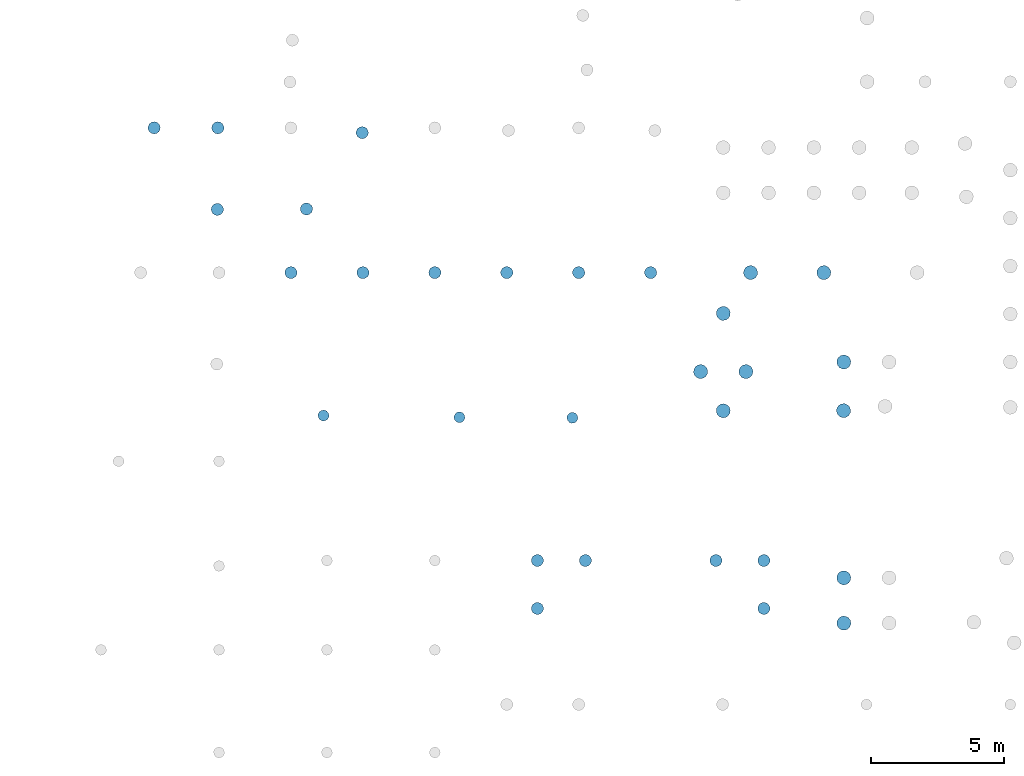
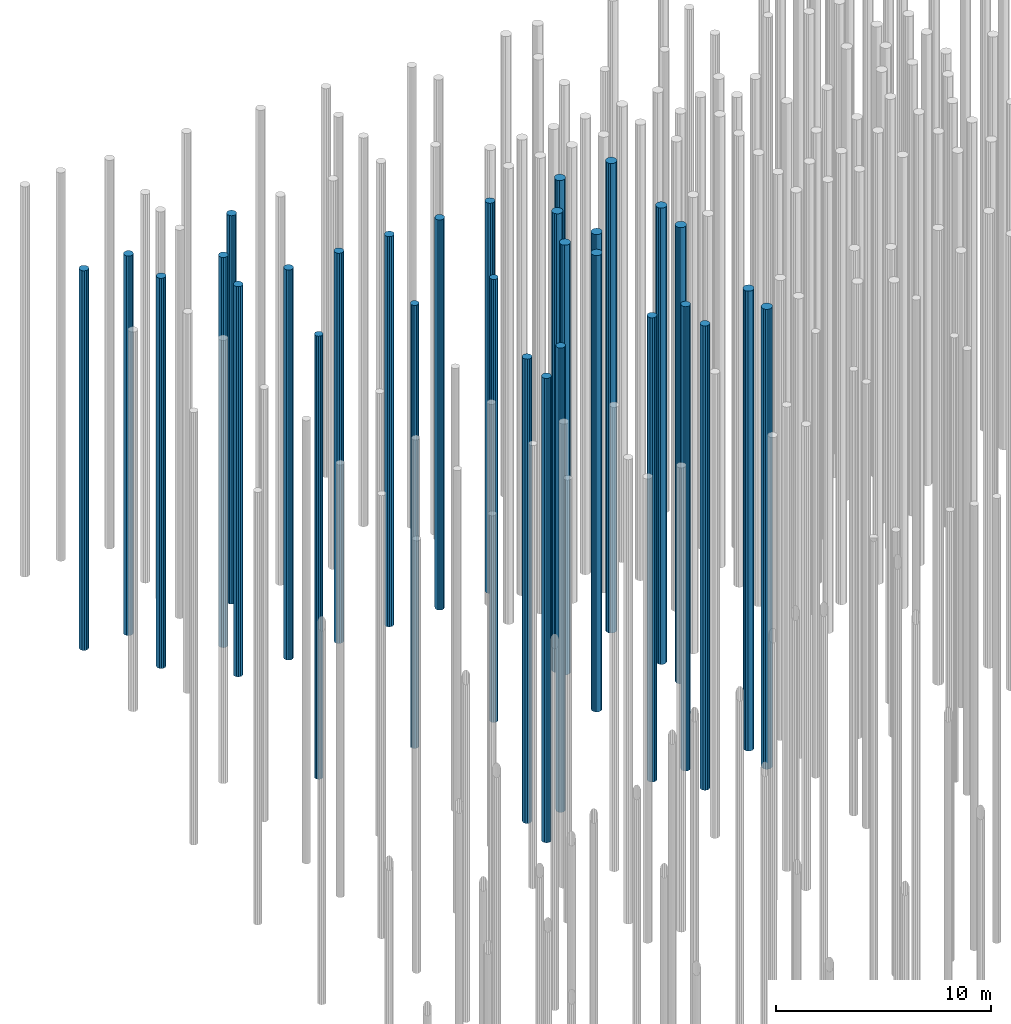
# One storey, part 5 of 20: 30 piles.
"""IFC2X3 building model written with IfcOpenShell, lengths in millimetres."""

from ifc_helpers import new_model, entity, si_unit, converted_unit, derived_unit, direction, frame, origin, place, context, subcontext, project, spatial, polyline, outline, extrude, material, element, save


model = new_model("IFC2X3")

# Units and contexts
model_context = context("Model", 3, precision=0.01, world=origin(), true_north=direction((6.12303176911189e-17, 1.0)))
body_context = subcontext(model_context, "Body", "Model", "MODEL_VIEW")
ifc_project = project(units=[si_unit("LENGTHUNIT", "METRE", prefix="MILLI"), si_unit("AREAUNIT", "SQUARE_METRE"), si_unit("VOLUMEUNIT", "CUBIC_METRE"), converted_unit("PLANEANGLEUNIT", "DEGREE", entity("IfcRatioMeasure", 0.0174532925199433), si_unit("PLANEANGLEUNIT", "RADIAN"), dimensions=[0, 0, 0, 0, 0, 0, 0]), si_unit("MASSUNIT", "GRAM", prefix="KILO"), derived_unit("MASSDENSITYUNIT", [(si_unit("MASSUNIT", "GRAM", prefix="KILO"), 1), (si_unit("LENGTHUNIT", "METRE"), -3)]), si_unit("TIMEUNIT", "SECOND"), si_unit("FREQUENCYUNIT", "HERTZ"), si_unit("THERMODYNAMICTEMPERATUREUNIT", "DEGREE_CELSIUS"), derived_unit("THERMALTRANSMITTANCEUNIT", [(si_unit("MASSUNIT", "GRAM", prefix="KILO"), 1), (si_unit("THERMODYNAMICTEMPERATUREUNIT", "KELVIN"), -1), (si_unit("TIMEUNIT", "SECOND"), -3)]), derived_unit("VOLUMETRICFLOWRATEUNIT", [(si_unit("LENGTHUNIT", "METRE"), 3), (si_unit("TIMEUNIT", "SECOND"), -1)]), si_unit("ELECTRICCURRENTUNIT", "AMPERE"), si_unit("ELECTRICVOLTAGEUNIT", "VOLT"), si_unit("POWERUNIT", "WATT"), si_unit("FORCEUNIT", "NEWTON", prefix="KILO"), si_unit("ILLUMINANCEUNIT", "LUX"), si_unit("LUMINOUSFLUXUNIT", "LUMEN"), si_unit("LUMINOUSINTENSITYUNIT", "CANDELA"), derived_unit("USERDEFINED", [(si_unit("MASSUNIT", "GRAM", prefix="KILO"), -1), (si_unit("LENGTHUNIT", "METRE"), -2), (si_unit("TIMEUNIT", "SECOND"), 3), (si_unit("LUMINOUSFLUXUNIT", "LUMEN"), 1)]), derived_unit("LINEARVELOCITYUNIT", [(si_unit("LENGTHUNIT", "METRE"), 1), (si_unit("TIMEUNIT", "SECOND"), -1)]), si_unit("PRESSUREUNIT", "PASCAL"), derived_unit("USERDEFINED", [(si_unit("LENGTHUNIT", "METRE"), -2), (si_unit("MASSUNIT", "GRAM", prefix="KILO"), 1), (si_unit("TIMEUNIT", "SECOND"), -2)])], contexts=[model_context])

# Site, building, storey
site_placement = place(None, origin())
site = spatial("IfcSite", under=ifc_project, at=site_placement, Name="Default", CompositionType="ELEMENT")
building_placement = place(site_placement, origin())
building = spatial("IfcBuilding", under=site, at=building_placement, Name="niet gebruiken", CompositionType="ELEMENT")
storey_placement = place(building_placement, frame((0.0, 0.0, -4000.0)))
storey = spatial("IfcBuildingStorey", under=building, at=storey_placement, Name="Level t.b.v. palenplan", CompositionType="ELEMENT", Elevation=-4000.0)

# Piles
ifc_material = material(Name="NLRS_f2_beton ihwg")
pile_1_placement = place(storey_placement, origin())
element("IfcPile", 1, at=pile_1_placement, inside=storey, material=ifc_material, Name="NLRS_17.12_SFO_TLB_funderingspaal grondverdringend_gen:Fundex_r460/560", ObjectType="NLRS_17.12_SFO_TLB_funderingspaal grondverdringend_gen:Fundex_r460/560", context=body_context, shape_type="SweptSolid", body=[
    extrude(outline(polyline([(-25.7518295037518, -228.553808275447), (25.7518295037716, -228.553808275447), (122.367377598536, -194.7465658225), (194.746565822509, -122.367377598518), (228.553808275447, -25.7518295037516), (217.09316597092, 75.9641842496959), (162.6345596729, 162.634559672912), (75.9641842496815, 217.093165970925), (25.7518295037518, 228.553808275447), (-25.7518295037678, 228.553808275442), (-122.367377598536, 194.7465658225), (-194.746565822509, 122.367377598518), (-228.553808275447, 25.7518295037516), (-217.09316597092, -75.9641842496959), (-162.6345596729, -162.634559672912), (-75.964184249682, -217.093165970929), (-25.7518295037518, -228.553808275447)])), frame((20050.0, 30381.0, -24100.0), z_axis=(0.0, 0.0, 1.0), x_axis=(0.111964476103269, -0.993712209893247, 0.0)), (0.0, 0.0, 1.0), 26320.0),
])
pile_2_placement = place(storey_placement, origin())
element("IfcPile", 2, at=pile_2_placement, inside=storey, material=ifc_material, Name="NLRS_17.12_SFO_TLB_funderingspaal grondverdringend_gen:Fundex_r460/560", ObjectType="NLRS_17.12_SFO_TLB_funderingspaal grondverdringend_gen:Fundex_r460/560", context=body_context, shape_type="SweptSolid", body=[
    extrude(outline(polyline([(-25.7518295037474, -228.553808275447), (25.7518295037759, -228.553808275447), (122.36737759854, -194.7465658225), (194.746565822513, -122.367377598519), (228.553808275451, -25.7518295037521), (217.093165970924, 75.9641842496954), (162.634559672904, 162.634559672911), (75.9641842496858, 217.093165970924), (25.7518295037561, 228.553808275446), (-25.7518295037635, 228.553808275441), (-122.367377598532, 194.746565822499), (-194.746565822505, 122.367377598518), (-228.553808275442, 25.7518295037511), (-217.093165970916, -75.9641842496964), (-162.634559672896, -162.634559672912), (-75.9641842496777, -217.093165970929), (-25.7518295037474, -228.553808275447)])), frame((20050.0, 28581.0, -24100.0), z_axis=(0.0, 0.0, 1.0), x_axis=(0.111964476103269, -0.993712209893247, 0.0)), (0.0, 0.0, 1.0), 26320.0),
])
pile_3_placement = place(storey_placement, origin())
element("IfcPile", 3, at=pile_3_placement, inside=storey, material=ifc_material, Name="NLRS_17.12_SFO_TLB_funderingspaal grondverdringend_gen:Fundex_r530/650", ObjectType="NLRS_17.12_SFO_TLB_funderingspaal grondverdringend_gen:Fundex_r530/650", context=body_context, shape_type="SweptSolid", body=[
    extrude(outline(polyline([(-55.0965980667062, -259.209114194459), (55.0965980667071, -259.209114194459), (155.763091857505, -214.389503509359), (229.496732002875, -132.499999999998), (263.548302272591, -27.7000427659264), (252.029976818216, 81.8895035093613), (196.933378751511, 177.319610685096), (107.785210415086, 242.089546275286), (55.0965980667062, 259.209114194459), (-55.0965980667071, 259.209114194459), (-155.763091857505, 214.389503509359), (-229.496732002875, 132.499999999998), (-263.548302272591, 27.7000427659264), (-252.029976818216, -81.8895035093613), (-196.933378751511, -177.319610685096), (-107.785210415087, -242.08954627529), (-55.0965980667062, -259.209114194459)])), frame((31550.0, 29731.0, -23600.0), z_axis=(0.0, 0.0, 1.0), x_axis=(-0.978147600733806, -0.207911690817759, 0.0)), (0.0, 0.0, 1.0), 26070.0),
])
pile_4_placement = place(storey_placement, origin())
element("IfcPile", 4, at=pile_4_placement, inside=storey, material=ifc_material, Name="NLRS_17.12_SFO_TLB_funderingspaal grondverdringend_gen:Fundex_r530/650", ObjectType="NLRS_17.12_SFO_TLB_funderingspaal grondverdringend_gen:Fundex_r530/650", context=body_context, shape_type="SweptSolid", body=[
    extrude(outline(polyline([(-55.0965980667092, -259.209114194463), (55.0965980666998, -259.209114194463), (155.763091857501, -214.389503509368), (229.496732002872, -132.500000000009), (263.548302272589, -27.7000427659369), (252.029976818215, 81.8895035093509), (196.933378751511, 177.31961068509), (107.785210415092, 242.08954627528), (55.0965980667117, 259.209114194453), (-55.0965980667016, 259.209114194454), (-155.763091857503, 214.38950350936), (-229.496732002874, 132.5), (-263.54830227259, 27.7000427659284), (-252.029976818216, -81.8895035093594), (-196.933378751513, -177.319610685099), (-107.785210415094, -242.089546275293), (-55.0965980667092, -259.209114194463)])), frame((31550.0, 28031.0, -23600.0), z_axis=(0.0, 0.0, 1.0), x_axis=(0.207911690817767, -0.978147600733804, 0.0)), (0.0, 0.0, 1.0), 26070.0),
])
pile_5_placement = place(storey_placement, origin())
element("IfcPile", 5, at=pile_5_placement, inside=storey, material=ifc_material, Name="NLRS_17.12_SFO_TLB_funderingspaal grondverdringend_gen:Fundex_r530/650", ObjectType="NLRS_17.12_SFO_TLB_funderingspaal grondverdringend_gen:Fundex_r530/650", context=body_context, shape_type="SweptSolid", body=[
    extrude(outline(polyline([(-55.0965980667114, -259.209114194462), (55.096598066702, -259.209114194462), (155.763091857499, -214.389503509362), (229.49673200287, -132.500000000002), (263.548302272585, -27.7000427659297), (252.029976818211, 81.889503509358), (196.933378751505, 177.319610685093), (107.785210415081, 242.089546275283), (55.0965980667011, 259.209114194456), (-55.0965980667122, 259.209114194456), (-155.76309185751, 214.389503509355), (-229.49673200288, 132.499999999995), (-263.548302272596, 27.700042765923), (-252.029976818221, -81.8895035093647), (-196.933378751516, -177.3196106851), (-107.785210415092, -242.089546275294), (-55.0965980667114, -259.209114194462)])), frame((26175.0, 37471.0, -22100.0), z_axis=(0.0, 0.0, 1.0), x_axis=(-0.978147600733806, -0.207911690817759, 0.0)), (0.0, 0.0, 1.0), 24368.0),
])
pile_6_placement = place(storey_placement, origin())
element("IfcPile", 6, at=pile_6_placement, inside=storey, material=ifc_material, Name="NLRS_17.12_SFO_TLB_funderingspaal grondverdringend_gen:Fundex_r530/650", ObjectType="NLRS_17.12_SFO_TLB_funderingspaal grondverdringend_gen:Fundex_r530/650", context=body_context, shape_type="SweptSolid", body=[
    extrude(outline(polyline([(-55.0965980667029, -259.209114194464), (55.0965980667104, -259.209114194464), (155.763091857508, -214.389503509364), (229.496732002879, -132.500000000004), (263.548302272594, -27.7000427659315), (252.029976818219, 81.8895035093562), (196.933378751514, 177.319610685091), (107.78521041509, 242.089546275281), (55.0965980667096, 259.209114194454), (-55.0965980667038, 259.209114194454), (-155.763091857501, 214.389503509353), (-229.496732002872, 132.499999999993), (-263.548302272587, 27.7000427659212), (-252.029976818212, -81.8895035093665), (-196.933378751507, -177.319610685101), (-107.785210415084, -242.089546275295), (-55.0965980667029, -259.209114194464)])), frame((27875.0, 37471.0, -23600.0), z_axis=(0.0, 0.0, 1.0), x_axis=(-0.978147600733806, -0.207911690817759, 0.0)), (0.0, 0.0, 1.0), 25868.0),
])
pile_7_placement = place(storey_placement, origin())
element("IfcPile", 7, at=pile_7_placement, inside=storey, material=ifc_material, Name="NLRS_17.12_SFO_TLB_funderingspaal grondverdringend_gen:Fundex_r530/650", ObjectType="NLRS_17.12_SFO_TLB_funderingspaal grondverdringend_gen:Fundex_r530/650", context=body_context, shape_type="SweptSolid", body=[
    extrude(outline(polyline([(-55.0965980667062, -259.209114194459), (55.0965980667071, -259.209114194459), (155.763091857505, -214.389503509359), (229.496732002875, -132.499999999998), (263.548302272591, -27.7000427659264), (252.029976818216, 81.8895035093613), (196.933378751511, 177.319610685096), (107.785210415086, 242.089546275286), (55.0965980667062, 259.209114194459), (-55.0965980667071, 259.209114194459), (-155.763091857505, 214.389503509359), (-229.496732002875, 132.499999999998), (-263.548302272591, 27.7000427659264), (-252.029976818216, -81.8895035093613), (-196.933378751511, -177.319610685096), (-107.785210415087, -242.08954627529), (-55.0965980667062, -259.209114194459)])), frame((27025.0, 36001.0, -23600.0), z_axis=(0.0, 0.0, 1.0), x_axis=(-0.978147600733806, -0.207911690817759, 0.0)), (0.0, 0.0, 1.0), 25868.0),
])
pile_8_placement = place(storey_placement, origin())
element("IfcPile", 8, at=pile_8_placement, inside=storey, material=ifc_material, Name="NLRS_17.12_SFO_TLB_funderingspaal grondverdringend_gen:Fundex_r530/650", ObjectType="NLRS_17.12_SFO_TLB_funderingspaal grondverdringend_gen:Fundex_r530/650", context=body_context, shape_type="SweptSolid", body=[
    extrude(outline(polyline([(-55.0965980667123, -259.209114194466), (55.0965980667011, -259.209114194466), (155.763091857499, -214.389503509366), (229.496732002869, -132.500000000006), (263.548302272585, -27.7000427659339), (252.02997681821, 81.8895035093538), (196.933378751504, 177.319610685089), (107.78521041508, 242.089546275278), (55.0965980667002, 259.209114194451), (-55.0965980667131, 259.209114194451), (-155.763091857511, 214.389503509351), (-229.496732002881, 132.499999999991), (-263.548302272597, 27.7000427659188), (-252.029976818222, -81.8895035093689), (-196.933378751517, -177.319610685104), (-107.785210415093, -242.089546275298), (-55.0965980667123, -259.209114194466)])), frame((31550.0, 37831.0, -23600.0), z_axis=(0.0, 0.0, 1.0), x_axis=(-0.978147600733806, -0.207911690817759, 0.0)), (0.0, 0.0, 1.0), 25868.0),
])
pile_9_placement = place(storey_placement, origin())
element("IfcPile", 9, at=pile_9_placement, inside=storey, material=ifc_material, Name="NLRS_17.12_SFO_TLB_funderingspaal grondverdringend_gen:Fundex_r530/650", ObjectType="NLRS_17.12_SFO_TLB_funderingspaal grondverdringend_gen:Fundex_r530/650", context=body_context, shape_type="SweptSolid", body=[
    extrude(outline(polyline([(-55.0965980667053, -259.209114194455), (55.096598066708, -259.209114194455), (155.763091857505, -214.389503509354), (229.496732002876, -132.499999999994), (263.548302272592, -27.7000427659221), (252.029976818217, 81.8895035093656), (196.933378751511, 177.3196106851), (107.785210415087, 242.08954627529), (55.0965980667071, 259.209114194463), (-55.0965980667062, 259.209114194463), (-155.763091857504, 214.389503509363), (-229.496732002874, 132.500000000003), (-263.54830227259, 27.7000427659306), (-252.029976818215, -81.8895035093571), (-196.93337875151, -177.319610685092), (-107.785210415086, -242.089546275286), (-55.0965980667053, -259.209114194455)])), frame((31539.0, 36005.0, -23600.0), z_axis=(0.0, 0.0, 1.0), x_axis=(-0.978147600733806, -0.207911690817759, 0.0)), (0.0, 0.0, 1.0), 25868.0),
])
pile_10_placement = place(storey_placement, origin())
element("IfcPile", 10, at=pile_10_placement, inside=storey, material=ifc_material, Name="NLRS_17.12_SFO_TLB_funderingspaal grondverdringend_gen:Fundex_r530/650", ObjectType="NLRS_17.12_SFO_TLB_funderingspaal grondverdringend_gen:Fundex_r530/650", context=body_context, shape_type="SweptSolid", body=[
    extrude(outline(polyline([(-55.0965980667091, -259.209114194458), (55.0965980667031, -259.209114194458), (155.763091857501, -214.389503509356), (229.49673200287, -132.499999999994), (263.548302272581, -27.7000427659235), (252.029976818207, 81.8895035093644), (196.933378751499, 177.3196106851), (107.785210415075, 242.08954627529), (55.0965980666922, 259.209114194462), (-55.09659806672, 259.209114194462), (-155.763091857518, 214.38950350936), (-229.496732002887, 132.499999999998), (-263.548302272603, 27.700042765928), (-252.029976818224, -81.8895035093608), (-196.933378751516, -177.319610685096), (-107.785210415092, -242.089546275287), (-55.0965980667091, -259.209114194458)])), frame((27025.0, 39656.0, -23600.0), z_axis=(0.0, 0.0, 1.0), x_axis=(-0.978147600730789, -0.207911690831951, 0.0)), (0.0, 0.0, 1.0), 26018.0),
])
pile_11_placement = place(storey_placement, origin())
element("IfcPile", 11, at=pile_11_placement, inside=storey, material=ifc_material, Name="NLRS_17.12_SFO_TLB_funderingspaal grondverdringend_gen:Fundex_r530/650", ObjectType="NLRS_17.12_SFO_TLB_funderingspaal grondverdringend_gen:Fundex_r530/650", context=body_context, shape_type="SweptSolid", body=[
    extrude(outline(polyline([(-55.0965980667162, -259.209114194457), (55.096598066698, -259.209114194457), (155.763091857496, -214.389503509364), (229.496732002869, -132.500000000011), (263.548302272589, -27.7000427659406), (252.029976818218, 81.8895035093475), (196.933378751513, 177.31961068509), (107.785210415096, 242.089546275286), (55.0965980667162, 259.209114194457), (-55.096598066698, 259.209114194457), (-155.763091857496, 214.389503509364), (-229.496732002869, 132.500000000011), (-263.548302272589, 27.7000427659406), (-252.029976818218, -81.8895035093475), (-196.933378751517, -177.319610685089), (-107.785210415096, -242.089546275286), (-55.0965980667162, -259.209114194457)])), frame((30800.0, 41186.0, -23600.0), z_axis=(0.0, 0.0, 1.0), x_axis=(-0.978147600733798, -0.207911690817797, 0.0)), (0.0, 0.0, 1.0), 26618.0),
])
pile_12_placement = place(storey_placement, origin())
element("IfcPile", 12, at=pile_12_placement, inside=storey, material=ifc_material, Name="NLRS_17.12_SFO_TLB_funderingspaal grondverdringend_gen:Fundex_r530/650", ObjectType="NLRS_17.12_SFO_TLB_funderingspaal grondverdringend_gen:Fundex_r530/650", context=body_context, shape_type="SweptSolid", body=[
    extrude(outline(polyline([(-55.0965980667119, -259.209114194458), (55.0965980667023, -259.209114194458), (155.763091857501, -214.389503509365), (229.496732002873, -132.500000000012), (263.548302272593, -27.7000427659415), (252.029976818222, 81.8895035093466), (196.933378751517, 177.319610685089), (107.785210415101, 242.089546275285), (55.0965980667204, 259.209114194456), (-55.0965980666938, 259.209114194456), (-155.763091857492, 214.389503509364), (-229.496732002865, 132.50000000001), (-263.548302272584, 27.7000427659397), (-252.029976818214, -81.8895035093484), (-196.933378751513, -177.31961068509), (-107.785210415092, -242.089546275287), (-55.0965980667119, -259.209114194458)])), frame((28050.0, 41186.0, -23600.0), z_axis=(0.0, 0.0, 1.0), x_axis=(-0.978147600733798, -0.207911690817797, 0.0)), (0.0, 0.0, 1.0), 26618.0),
])
pile_13_placement = place(storey_placement, origin())
element("IfcPile", 13, at=pile_13_placement, inside=storey, material=ifc_material, Name="NLRS_17.12_SFO_TLB_funderingspaal grondverdringend_gen:Fundex_r410/500", ObjectType="NLRS_17.12_SFO_TLB_funderingspaal grondverdringend_gen:Fundex_r410/500", context=body_context, shape_type="SweptSolid", body=[
    extrude(outline(polyline([(-49.0597111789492, -199.04307257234), (49.0597111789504, -199.04307257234), (135.940144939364, -153.444703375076), (191.678329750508, -72.6940018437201), (203.505319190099, 24.7100194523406), (168.7116925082, 116.453273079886), (95.2682502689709, 181.518485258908), (49.0597111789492, 199.04307257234), (-49.0597111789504, 199.04307257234), (-135.940144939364, 153.444703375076), (-191.678329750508, 72.6940018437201), (-203.505319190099, -24.7100194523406), (-168.7116925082, -116.453273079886), (-95.2682502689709, -181.518485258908), (-49.0597111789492, -199.04307257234)])), frame((12021.0675573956, 35821.5090327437, -22100.0), z_axis=(0.0, 0.0, 1.0), x_axis=(0.239315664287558, -0.970941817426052, 0.0)), (0.0, 0.0, 1.0), 25118.0),
])
pile_14_placement = place(storey_placement, origin())
element("IfcPile", 14, at=pile_14_placement, inside=storey, material=ifc_material, Name="NLRS_17.12_SFO_TLB_funderingspaal grondverdringend_gen:Fundex_r410/500", ObjectType="NLRS_17.12_SFO_TLB_funderingspaal grondverdringend_gen:Fundex_r410/500", context=body_context, shape_type="SweptSolid", body=[
    extrude(outline(polyline([(-49.0597111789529, -199.043072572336), (49.0597111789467, -199.043072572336), (135.940144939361, -153.444703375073), (191.678329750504, -72.6940018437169), (203.505319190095, 24.7100194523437), (168.711692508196, 116.453273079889), (95.2682502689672, 181.518485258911), (49.0597111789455, 199.043072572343), (-49.0597111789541, 199.043072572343), (-135.940144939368, 153.444703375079), (-191.678329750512, 72.6940018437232), (-203.505319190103, -24.7100194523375), (-168.711692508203, -116.453273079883), (-95.2682502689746, -181.518485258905), (-49.0597111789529, -199.043072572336)])), frame((17122.5311179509, 35755.3819187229, -22100.0), z_axis=(0.0, 0.0, 1.0), x_axis=(0.239315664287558, -0.970941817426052, 0.0)), (0.0, 0.0, 1.0), 25118.0),
])
pile_15_placement = place(storey_placement, origin())
element("IfcPile", 15, at=pile_15_placement, inside=storey, material=ifc_material, Name="NLRS_17.12_SFO_TLB_funderingspaal grondverdringend_gen:Fundex_r460/560", ObjectType="NLRS_17.12_SFO_TLB_funderingspaal grondverdringend_gen:Fundex_r460/560", context=body_context, shape_type="SweptSolid", body=[
    extrude(outline(polyline([(-25.7518295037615, -228.553808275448), (25.7518295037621, -228.553808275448), (122.367377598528, -194.746565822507), (194.746565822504, -122.367377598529), (228.553808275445, -25.7518295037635), (217.093165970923, 75.9641842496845), (162.634559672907, 162.634559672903), (75.9641842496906, 217.093165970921), (25.7518295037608, 228.553808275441), (-25.7518295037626, 228.553808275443), (-122.367377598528, 194.746565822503), (-194.746565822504, 122.367377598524), (-228.553808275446, 25.7518295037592), (-217.093165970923, -75.9641842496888), (-162.634559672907, -162.634559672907), (-75.9641842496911, -217.093165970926), (-25.7518295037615, -228.553808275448)])), frame((10800.0, 41186.0, -19100.0), z_axis=(0.0, 0.0, 1.0), x_axis=(0.11196447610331, -0.993712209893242, 0.0)), (0.0, 0.0, 1.0), 22118.0),
])
pile_16_placement = place(storey_placement, origin())
element("IfcPile", 16, at=pile_16_placement, inside=storey, material=ifc_material, Name="NLRS_17.12_SFO_TLB_funderingspaal grondverdringend_gen:Fundex_r460/560", ObjectType="NLRS_17.12_SFO_TLB_funderingspaal grondverdringend_gen:Fundex_r460/560", context=body_context, shape_type="SweptSolid", body=[
    extrude(outline(polyline([(-25.7518295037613, -228.553808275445), (25.7518295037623, -228.553808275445), (122.367377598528, -194.746565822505), (194.746565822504, -122.367377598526), (228.553808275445, -25.7518295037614), (217.093165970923, 75.9641842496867), (162.634559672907, 162.634559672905), (75.9641842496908, 217.093165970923), (25.7518295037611, 228.553808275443), (-25.7518295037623, 228.553808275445), (-122.367377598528, 194.746565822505), (-194.746565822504, 122.367377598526), (-228.553808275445, 25.7518295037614), (-217.093165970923, -75.9641842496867), (-162.634559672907, -162.634559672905), (-75.9641842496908, -217.093165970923), (-25.7518295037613, -228.553808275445)])), frame((13500.0, 41186.0, -19100.0), z_axis=(0.0, 0.0, 1.0), x_axis=(0.11196447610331, -0.993712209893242, 0.0)), (0.0, 0.0, 1.0), 22118.0),
])
pile_17_placement = place(storey_placement, origin())
element("IfcPile", 17, at=pile_17_placement, inside=storey, material=ifc_material, Name="NLRS_17.12_SFO_TLB_funderingspaal grondverdringend_gen:Fundex_r460/560", ObjectType="NLRS_17.12_SFO_TLB_funderingspaal grondverdringend_gen:Fundex_r460/560", context=body_context, shape_type="SweptSolid", body=[
    extrude(outline(polyline([(-25.7518295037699, -228.553808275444), (25.7518295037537, -228.553808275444), (122.367377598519, -194.746565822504), (194.746565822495, -122.367377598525), (228.553808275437, -25.7518295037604), (217.093165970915, 75.9641842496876), (162.634559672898, 162.634559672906), (75.9641842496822, 217.093165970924), (25.7518295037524, 228.553808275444), (-25.7518295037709, 228.553808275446), (-122.367377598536, 194.746565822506), (-194.746565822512, 122.367377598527), (-228.553808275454, 25.7518295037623), (-217.093165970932, -75.9641842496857), (-162.634559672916, -162.634559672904), (-75.9641842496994, -217.093165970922), (-25.7518295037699, -228.553808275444)])), frame((16200.0, 41186.0, -19100.0), z_axis=(0.0, 0.0, 1.0), x_axis=(0.11196447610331, -0.993712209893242, 0.0)), (0.0, 0.0, 1.0), 22118.0),
])
pile_18_placement = place(storey_placement, origin())
element("IfcPile", 18, at=pile_18_placement, inside=storey, material=ifc_material, Name="NLRS_17.12_SFO_TLB_funderingspaal grondverdringend_gen:Fundex_r460/560", ObjectType="NLRS_17.12_SFO_TLB_funderingspaal grondverdringend_gen:Fundex_r460/560", context=body_context, shape_type="SweptSolid", body=[
    extrude(outline(polyline([(-25.7518295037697, -228.553808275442), (25.751829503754, -228.553808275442), (122.367377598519, -194.746565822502), (194.746565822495, -122.367377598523), (228.553808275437, -25.7518295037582), (217.093165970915, 75.9641842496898), (162.634559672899, 162.634559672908), (75.9641842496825, 217.093165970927), (25.7518295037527, 228.553808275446), (-25.7518295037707, 228.553808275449), (-122.367377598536, 194.746565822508), (-194.746565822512, 122.36737759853), (-228.553808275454, 25.7518295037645), (-217.093165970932, -75.9641842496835), (-162.634559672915, -162.634559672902), (-75.9641842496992, -217.09316597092), (-25.7518295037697, -228.553808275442)])), frame((18900.0, 41186.0, -19100.0), z_axis=(0.0, 0.0, 1.0), x_axis=(0.11196447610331, -0.993712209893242, 0.0)), (0.0, 0.0, 1.0), 22118.0),
])
pile_19_placement = place(storey_placement, origin())
element("IfcPile", 19, at=pile_19_placement, inside=storey, material=ifc_material, Name="NLRS_17.12_SFO_TLB_funderingspaal grondverdringend_gen:Fundex_r460/560", ObjectType="NLRS_17.12_SFO_TLB_funderingspaal grondverdringend_gen:Fundex_r460/560", context=body_context, shape_type="SweptSolid", body=[
    extrude(outline(polyline([(-25.7518295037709, -228.553808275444), (25.751829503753, -228.553808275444), (122.36737759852, -194.74656582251), (194.746565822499, -122.367377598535), (228.553808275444, -25.7518295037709), (217.093165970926, 75.9641842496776), (162.634559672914, 162.634559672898), (75.9641842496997, 217.093165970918), (25.7518295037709, 228.553808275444), (-25.751829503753, 228.553808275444), (-122.36737759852, 194.74656582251), (-194.746565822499, 122.367377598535), (-228.553808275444, 25.7518295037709), (-217.093165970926, -75.9641842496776), (-162.634559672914, -162.634559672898), (-75.9641842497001, -217.093165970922), (-25.7518295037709, -228.553808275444)])), frame((21600.0, 41186.0, -19100.0), z_axis=(0.0, 0.0, 1.0), x_axis=(0.111964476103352, -0.993712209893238, 0.0)), (0.0, 0.0, 1.0), 22118.0),
])
pile_20_placement = place(storey_placement, origin())
element("IfcPile", 20, at=pile_20_placement, inside=storey, material=ifc_material, Name="NLRS_17.12_SFO_TLB_funderingspaal grondverdringend_gen:Fundex_r460/560", ObjectType="NLRS_17.12_SFO_TLB_funderingspaal grondverdringend_gen:Fundex_r460/560", context=body_context, shape_type="SweptSolid", body=[
    extrude(outline(polyline([(-25.7518295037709, -228.553808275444), (25.751829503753, -228.553808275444), (122.36737759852, -194.74656582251), (194.746565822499, -122.367377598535), (228.553808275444, -25.7518295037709), (217.093165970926, 75.9641842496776), (162.634559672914, 162.634559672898), (75.9641842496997, 217.093165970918), (25.7518295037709, 228.553808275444), (-25.751829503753, 228.553808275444), (-122.36737759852, 194.74656582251), (-194.746565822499, 122.367377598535), (-228.553808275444, 25.7518295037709), (-217.093165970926, -75.9641842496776), (-162.634559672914, -162.634559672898), (-75.9641842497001, -217.093165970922), (-25.7518295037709, -228.553808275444)])), frame((24300.0, 41186.0, -19100.0), z_axis=(0.0, 0.0, 1.0), x_axis=(0.111964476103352, -0.993712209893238, 0.0)), (0.0, 0.0, 1.0), 22118.0),
])
pile_21_placement = place(storey_placement, origin())
element("IfcPile", 21, at=pile_21_placement, inside=storey, material=ifc_material, Name="NLRS_17.12_SFO_TLB_funderingspaal grondverdringend_gen:Fundex_r410/500", ObjectType="NLRS_17.12_SFO_TLB_funderingspaal grondverdringend_gen:Fundex_r410/500", context=body_context, shape_type="SweptSolid", body=[
    extrude(outline(polyline([(-49.0597111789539, -199.043072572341), (49.0597111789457, -199.043072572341), (135.940144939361, -153.444703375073), (191.678329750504, -72.6940018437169), (203.505319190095, 24.7100194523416), (168.711692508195, 116.453273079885), (95.2682502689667, 181.518485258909), (49.0597111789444, 199.043072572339), (-49.0597111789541, 199.043072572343), (-135.940144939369, 153.444703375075), (-191.678329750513, 72.694001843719), (-203.505319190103, -24.7100194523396), (-168.711692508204, -116.453273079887), (-95.2682502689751, -181.518485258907), (-49.0597111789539, -199.043072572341)])), frame((21362.254986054, 35736.0179198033, -22100.0), z_axis=(0.0, 0.0, 1.0), x_axis=(0.239315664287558, -0.970941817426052, 0.0)), (0.0, 0.0, 1.0), 25118.0),
])
pile_22_placement = place(storey_placement, origin())
element("IfcPile", 22, at=pile_22_placement, inside=storey, material=ifc_material, Name="NLRS_17.12_SFO_TLB_funderingspaal grondverdringend_gen:Fundex_r460/560", ObjectType="NLRS_17.12_SFO_TLB_funderingspaal grondverdringend_gen:Fundex_r460/560", context=body_context, shape_type="SweptSolid", body=[
    extrude(outline(polyline([(-25.7518295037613, -228.553808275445), (25.7518295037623, -228.553808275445), (122.367377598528, -194.746565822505), (194.746565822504, -122.367377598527), (228.553808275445, -25.7518295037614), (217.093165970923, 75.9641842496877), (162.634559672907, 162.634559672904), (75.9641842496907, 217.093165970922), (25.7518295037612, 228.553808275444), (-25.7518295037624, 228.553808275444), (-122.367377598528, 194.746565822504), (-194.746565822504, 122.367377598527), (-228.553808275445, 25.7518295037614), (-217.093165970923, -75.9641842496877), (-162.634559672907, -162.634559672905), (-75.9641842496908, -217.093165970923), (-25.7518295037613, -228.553808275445)])), frame((8036.05878327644, 43558.7765479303, -19100.0), z_axis=(0.0, 0.0, 1.0), x_axis=(0.11196447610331, -0.993712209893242, 0.0)), (0.0, 0.0, 1.0), 22118.0),
])
pile_23_placement = place(storey_placement, origin())
element("IfcPile", 23, at=pile_23_placement, inside=storey, material=ifc_material, Name="NLRS_17.12_SFO_TLB_funderingspaal grondverdringend_gen:Fundex_r460/560", ObjectType="NLRS_17.12_SFO_TLB_funderingspaal grondverdringend_gen:Fundex_r460/560", context=body_context, shape_type="SweptSolid", body=[
    extrude(outline(polyline([(-25.7518295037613, -228.553808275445), (25.7518295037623, -228.553808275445), (122.367377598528, -194.746565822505), (194.746565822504, -122.367377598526), (228.553808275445, -25.7518295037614), (217.093165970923, 75.9641842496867), (162.634559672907, 162.634559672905), (75.9641842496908, 217.093165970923), (25.7518295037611, 228.553808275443), (-25.7518295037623, 228.553808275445), (-122.367377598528, 194.746565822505), (-194.746565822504, 122.367377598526), (-228.553808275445, 25.7518295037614), (-217.093165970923, -75.9641842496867), (-162.634559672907, -162.634559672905), (-75.9641842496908, -217.093165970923), (-25.7518295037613, -228.553808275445)])), frame((11381.8767829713, 43574.8908272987, -19100.0), z_axis=(0.0, 0.0, 1.0), x_axis=(0.11196447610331, -0.993712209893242, 0.0)), (0.0, 0.0, 1.0), 22118.0),
])
pile_24_placement = place(storey_placement, origin())
element("IfcPile", 24, at=pile_24_placement, inside=storey, material=ifc_material, Name="NLRS_17.12_SFO_TLB_funderingspaal grondverdringend_gen:Fundex_r460/560", ObjectType="NLRS_17.12_SFO_TLB_funderingspaal grondverdringend_gen:Fundex_r460/560", context=body_context, shape_type="SweptSolid", body=[
    extrude(outline(polyline([(-25.7518295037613, -228.553808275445), (25.7518295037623, -228.553808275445), (122.367377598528, -194.746565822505), (194.746565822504, -122.367377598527), (228.553808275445, -25.7518295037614), (217.093165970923, 75.9641842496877), (162.634559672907, 162.634559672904), (75.9641842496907, 217.093165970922), (25.7518295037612, 228.553808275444), (-25.7518295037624, 228.553808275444), (-122.367377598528, 194.746565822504), (-194.746565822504, 122.367377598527), (-228.553808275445, 25.7518295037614), (-217.093165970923, -75.9641842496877), (-162.634559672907, -162.634559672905), (-75.9641842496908, -217.093165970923), (-25.7518295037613, -228.553808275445)])), frame((8055.0, 46621.0, -19100.0), z_axis=(0.0, 0.0, 1.0), x_axis=(0.11196447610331, -0.993712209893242, 0.0)), (0.0, 0.0, 1.0), 21518.0),
])
pile_25_placement = place(storey_placement, origin())
element("IfcPile", 25, at=pile_25_placement, inside=storey, material=ifc_material, Name="NLRS_17.12_SFO_TLB_funderingspaal grondverdringend_gen:Fundex_r460/560", ObjectType="NLRS_17.12_SFO_TLB_funderingspaal grondverdringend_gen:Fundex_r460/560", context=body_context, shape_type="SweptSolid", body=[
    extrude(outline(polyline([(-25.7518295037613, -228.553808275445), (25.7518295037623, -228.553808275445), (122.367377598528, -194.746565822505), (194.746565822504, -122.367377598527), (228.553808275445, -25.7518295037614), (217.093165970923, 75.9641842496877), (162.634559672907, 162.634559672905), (75.9641842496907, 217.093165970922), (25.7518295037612, 228.553808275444), (-25.7518295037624, 228.553808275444), (-122.367377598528, 194.746565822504), (-194.746565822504, 122.367377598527), (-228.553808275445, 25.7518295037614), (-217.093165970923, -75.9641842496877), (-162.634559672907, -162.634559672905), (-75.9641842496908, -217.093165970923), (-25.7518295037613, -228.553808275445)])), frame((5665.0, 46621.0, -19100.0), z_axis=(0.0, 0.0, 1.0), x_axis=(0.11196447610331, -0.993712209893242, 0.0)), (0.0, 0.0, 1.0), 21518.0),
])
pile_26_placement = place(storey_placement, origin())
element("IfcPile", 26, at=pile_26_placement, inside=storey, material=ifc_material, Name="NLRS_17.12_SFO_TLB_funderingspaal grondverdringend_gen:Fundex_r460/560", ObjectType="NLRS_17.12_SFO_TLB_funderingspaal grondverdringend_gen:Fundex_r460/560", context=body_context, shape_type="SweptSolid", body=[
    extrude(outline(polyline([(-25.7518295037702, -228.553808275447), (25.7518295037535, -228.553808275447), (122.367377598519, -194.746565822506), (194.746565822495, -122.367377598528), (228.553808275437, -25.7518295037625), (217.093165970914, 75.9641842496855), (162.634559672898, 162.634559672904), (75.964184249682, 217.093165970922), (25.7518295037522, 228.553808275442), (-25.7518295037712, 228.553808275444), (-122.367377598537, 194.746565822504), (-194.746565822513, 122.367377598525), (-228.553808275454, 25.7518295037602), (-217.093165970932, -75.9641842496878), (-162.634559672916, -162.634559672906), (-75.9641842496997, -217.093165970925), (-25.7518295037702, -228.553808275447)])), frame((13474.6264968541, 46438.4501725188, -19100.0), z_axis=(0.0, 0.0, 1.0), x_axis=(0.11196447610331, -0.993712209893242, 0.0)), (0.0, 0.0, 1.0), 22018.0),
])
pile_27_placement = place(storey_placement, origin())
element("IfcPile", 27, at=pile_27_placement, inside=storey, material=ifc_material, Name="NLRS_17.12_SFO_TLB_funderingspaal grondverdringend_gen:Fundex_r460/560", ObjectType="NLRS_17.12_SFO_TLB_funderingspaal grondverdringend_gen:Fundex_r460/560", context=body_context, shape_type="SweptSolid", body=[
    extrude(outline(polyline([(-25.7518295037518, -228.553808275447), (25.7518295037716, -228.553808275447), (122.367377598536, -194.7465658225), (194.746565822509, -122.367377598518), (228.553808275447, -25.7518295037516), (217.09316597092, 75.9641842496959), (162.6345596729, 162.634559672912), (75.9641842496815, 217.093165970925), (25.7518295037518, 228.553808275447), (-25.7518295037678, 228.553808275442), (-122.367377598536, 194.7465658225), (-194.746565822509, 122.367377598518), (-228.553808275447, 25.7518295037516), (-217.09316597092, -75.9641842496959), (-162.6345596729, -162.634559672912), (-75.964184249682, -217.093165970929), (-25.7518295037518, -228.553808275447)])), frame((21850.0, 30381.0, -24100.0), z_axis=(0.0, 0.0, 1.0), x_axis=(0.111964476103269, -0.993712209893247, 0.0)), (0.0, 0.0, 1.0), 26320.0),
])
pile_28_placement = place(storey_placement, origin())
element("IfcPile", 28, at=pile_28_placement, inside=storey, material=ifc_material, Name="NLRS_17.12_SFO_TLB_funderingspaal grondverdringend_gen:Fundex_r460/560", ObjectType="NLRS_17.12_SFO_TLB_funderingspaal grondverdringend_gen:Fundex_r460/560", context=body_context, shape_type="SweptSolid", body=[
    extrude(outline(polyline([(-25.7518295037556, -228.553808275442), (25.7518295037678, -228.553808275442), (122.367377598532, -194.746565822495), (194.746565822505, -122.367377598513), (228.553808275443, -25.7518295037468), (217.093165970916, 75.9641842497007), (162.634559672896, 162.634559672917), (75.9641842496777, 217.093165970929), (25.7518295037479, 228.553808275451), (-25.7518295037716, 228.553808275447), (-122.36737759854, 194.746565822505), (-194.746565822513, 122.367377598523), (-228.55380827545, 25.7518295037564), (-217.093165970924, -75.9641842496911), (-162.634559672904, -162.634559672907), (-75.9641842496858, -217.093165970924), (-25.7518295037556, -228.553808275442)])), frame((26750.0, 30381.0, -24100.0), z_axis=(0.0, 0.0, 1.0), x_axis=(0.111964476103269, -0.993712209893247, 0.0)), (0.0, 0.0, 1.0), 26320.0),
])
pile_29_placement = place(storey_placement, origin())
element("IfcPile", 29, at=pile_29_placement, inside=storey, material=ifc_material, Name="NLRS_17.12_SFO_TLB_funderingspaal grondverdringend_gen:Fundex_r460/560", ObjectType="NLRS_17.12_SFO_TLB_funderingspaal grondverdringend_gen:Fundex_r460/560", context=body_context, shape_type="SweptSolid", body=[
    extrude(outline(polyline([(-25.7518295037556, -228.553808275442), (25.7518295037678, -228.553808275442), (122.367377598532, -194.746565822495), (194.746565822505, -122.367377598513), (228.553808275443, -25.7518295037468), (217.093165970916, 75.9641842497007), (162.634559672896, 162.634559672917), (75.9641842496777, 217.093165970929), (25.7518295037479, 228.553808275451), (-25.7518295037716, 228.553808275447), (-122.36737759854, 194.746565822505), (-194.746565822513, 122.367377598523), (-228.55380827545, 25.7518295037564), (-217.093165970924, -75.9641842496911), (-162.634559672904, -162.634559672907), (-75.9641842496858, -217.093165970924), (-25.7518295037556, -228.553808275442)])), frame((28550.0, 30381.0, -24100.0), z_axis=(0.0, 0.0, 1.0), x_axis=(0.111964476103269, -0.993712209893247, 0.0)), (0.0, 0.0, 1.0), 26320.0),
])
pile_30_placement = place(storey_placement, origin())
element("IfcPile", 30, at=pile_30_placement, inside=storey, material=ifc_material, Name="NLRS_17.12_SFO_TLB_funderingspaal grondverdringend_gen:Fundex_r460/560", ObjectType="NLRS_17.12_SFO_TLB_funderingspaal grondverdringend_gen:Fundex_r460/560", context=body_context, shape_type="SweptSolid", body=[
    extrude(outline(polyline([(-25.7518295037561, -228.553808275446), (25.7518295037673, -228.553808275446), (122.367377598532, -194.746565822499), (194.746565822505, -122.367377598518), (228.553808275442, -25.7518295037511), (217.093165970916, 75.9641842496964), (162.634559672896, 162.634559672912), (75.9641842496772, 217.093165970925), (25.7518295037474, 228.553808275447), (-25.7518295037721, 228.553808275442), (-122.36737759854, 194.7465658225), (-194.746565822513, 122.367377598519), (-228.553808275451, 25.7518295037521), (-217.093165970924, -75.9641842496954), (-162.634559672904, -162.634559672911), (-75.9641842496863, -217.093165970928), (-25.7518295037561, -228.553808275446)])), frame((28550.0, 28581.0, -24100.0), z_axis=(0.0, 0.0, 1.0), x_axis=(0.111964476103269, -0.993712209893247, 0.0)), (0.0, 0.0, 1.0), 26320.0),
])

save(model, "model.ifc")
